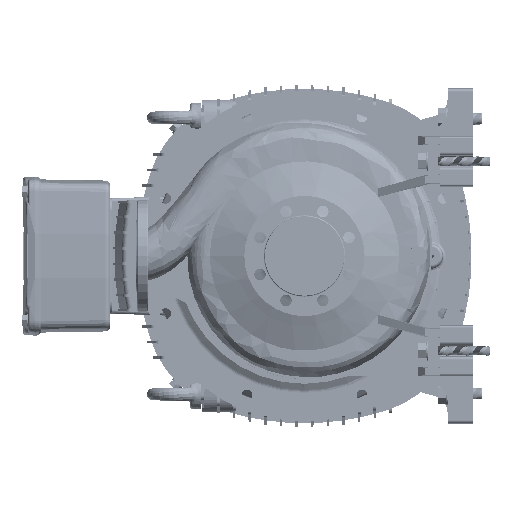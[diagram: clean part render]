
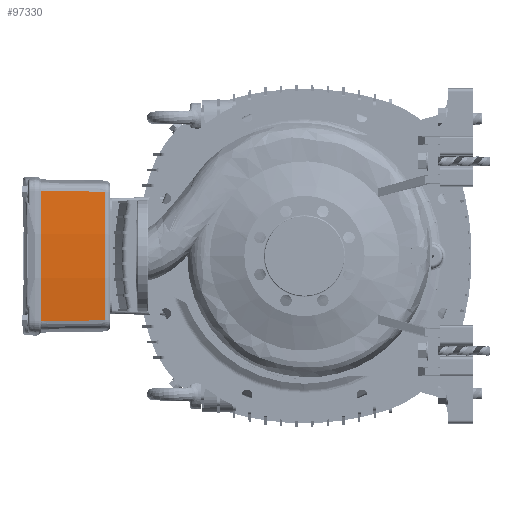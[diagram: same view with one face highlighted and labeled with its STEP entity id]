
A CAD part, left-side view. The second image highlights one B-rep face of the part: STEP entity #97330.
In plain terms, the highlighted conical face has half-angle 1 degrees and reference radius 1049 mm.
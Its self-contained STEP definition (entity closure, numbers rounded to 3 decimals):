
#281 = EDGE_CURVE ( 'NONE', #101305, #139693, #118859, .T. ) ;
#1889 = LINE ( 'NONE', #142246, #105377 ) ;
#2403 = DIRECTION ( 'NONE',  ( 0., 1., 0. ) ) ;
#3806 = VECTOR ( 'NONE', #141254, 1000. ) ;
#6433 = EDGE_CURVE ( 'NONE', #101305, #83435, #145208, .T. ) ;
#14361 = CARTESIAN_POINT ( 'NONE',  ( 0., 437.446, -896.5 ) ) ;
#16870 = CARTESIAN_POINT ( 'NONE',  ( -107.19, 330.86, 144.954 ) ) ;
#22457 = CONICAL_SURFACE ( 'NONE', #98474, 1049., 0.017 ) ;
#28543 = EDGE_CURVE ( 'NONE', #83435, #38242, #127079, .T. ) ;
#32268 = FACE_OUTER_BOUND ( 'NONE', #119032, .T. ) ;
#38242 = VERTEX_POINT ( 'NONE', #65916 ) ;
#40010 = ORIENTED_EDGE ( 'NONE', *, *, #28543, .T. ) ;
#47499 = CARTESIAN_POINT ( 'NONE',  ( 0., 448., -896.5 ) ) ;
#51055 = AXIS2_PLACEMENT_3D ( 'NONE', #97722, #123235, #87478 ) ;
#54451 = EDGE_CURVE ( 'NONE', #139693, #38242, #1889, .T. ) ;
#65916 = CARTESIAN_POINT ( 'NONE',  ( 107.19, 330.86, 144.954 ) ) ;
#67276 = AXIS2_PLACEMENT_3D ( 'NONE', #14361, #2403, #80619 ) ;
#75489 = CARTESIAN_POINT ( 'NONE',  ( -107.381, 437.446, 146.804 ) ) ;
#77593 = DIRECTION ( 'NONE',  ( -0.002, -1., -0.017 ) ) ;
#80619 = DIRECTION ( 'NONE',  ( -1., 0., 0. ) ) ;
#82291 = ORIENTED_EDGE ( 'NONE', *, *, #54451, .F. ) ;
#83435 = VERTEX_POINT ( 'NONE', #16870 ) ;
#87478 = DIRECTION ( 'NONE',  ( -1., 0., 0. ) ) ;
#97330 = ADVANCED_FACE ( 'NONE', ( #32268 ), #22457, .T. ) ;
#97722 = CARTESIAN_POINT ( 'NONE',  ( 0., 330.86, -896.5 ) ) ;
#98474 = AXIS2_PLACEMENT_3D ( 'NONE', #47499, #160660, #123249 ) ;
#99235 = CARTESIAN_POINT ( 'NONE',  ( 107.381, 437.446, 146.804 ) ) ;
#100446 = CARTESIAN_POINT ( 'NONE',  ( -107.4, 448., 146.988 ) ) ;
#101305 = VERTEX_POINT ( 'NONE', #75489 ) ;
#105377 = VECTOR ( 'NONE', #77593, 1000. ) ;
#118859 = CIRCLE ( 'NONE', #67276, 1048.816 ) ;
#119032 = EDGE_LOOP ( 'NONE', ( #167220, #40010, #82291, #139411 ) ) ;
#123235 = DIRECTION ( 'NONE',  ( 0., 1., 0. ) ) ;
#123249 = DIRECTION ( 'NONE',  ( 1., 0., 0. ) ) ;
#127079 = CIRCLE ( 'NONE', #51055, 1046.955 ) ;
#139411 = ORIENTED_EDGE ( 'NONE', *, *, #281, .F. ) ;
#139693 = VERTEX_POINT ( 'NONE', #99235 ) ;
#141254 = DIRECTION ( 'NONE',  ( 0.002, -1., -0.017 ) ) ;
#142246 = CARTESIAN_POINT ( 'NONE',  ( 107.4, 448., 146.988 ) ) ;
#145208 = LINE ( 'NONE', #100446, #3806 ) ;
#160660 = DIRECTION ( 'NONE',  ( 0., 1., 0. ) ) ;
#167220 = ORIENTED_EDGE ( 'NONE', *, *, #6433, .T. ) ;
